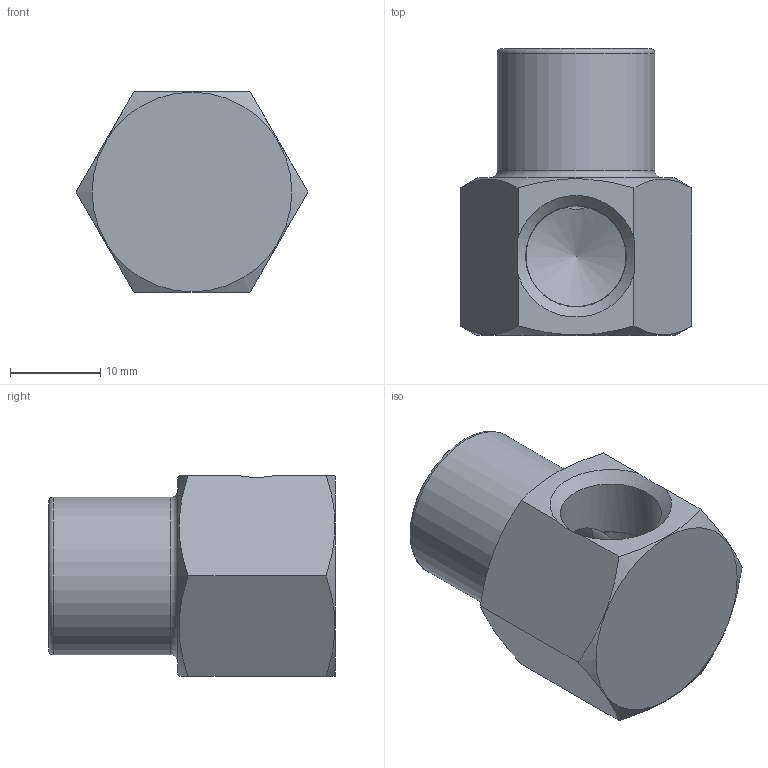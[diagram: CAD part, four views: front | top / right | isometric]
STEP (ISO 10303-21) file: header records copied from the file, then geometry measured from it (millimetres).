
FILE_DESCRIPTION(/* description */ (''),/* implementation_level */ '2;1');
FILE_NAME(/* name */ 'C:/Users/drich/Desktop/14SB v3.step',/* time_stamp */ '2021-03-10T10:35:30-06:00',/* author */ (''),/* organization */ (''),/* preprocessor_version */ 'ST-DEVELOPER v18.1',/* originating_system */ 'Autodesk Translation Framework v9.10.0.1330',/* authorisation */ '');
FILE_SCHEMA (('AUTOMOTIVE_DESIGN { 1 0 10303 214 3 1 1 }'));
Length unit declared in the file: inch
Products named in the file (1): 14SB
Bounding box: 25.66 x 31.75 x 22.23 mm (x, y, z)
Volume: 7512.9 mm3; surface area: 3893.9 mm2
Topology: 1 solids, 1 shells, 26 faces, 68 edges, 44 vertices
Faces by surface type: plane 12, cone 6, cylinder 6, torus 2
Full cylindrical faces by diameter (mm): 9.525 x1, 11.1 x1, 11.176 x2, 17.45 x1
Entity records: 876 total; most frequent: CARTESIAN_POINT 230, ORIENTED_EDGE 134, DIRECTION 123, EDGE_CURVE 67, AXIS2_PLACEMENT_3D 51, VERTEX_POINT 44, EDGE_LOOP 29, FACE_OUTER_BOUND 26
